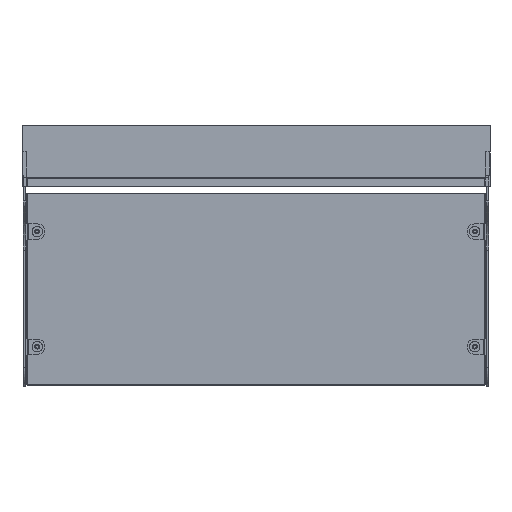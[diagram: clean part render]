
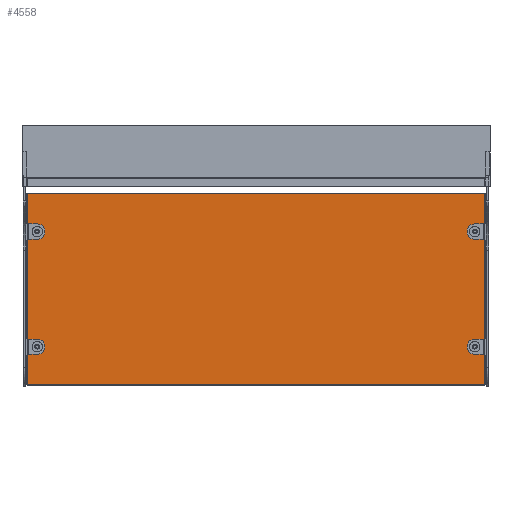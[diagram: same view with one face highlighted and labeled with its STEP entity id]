
A CAD part, front view. The second image highlights one B-rep face of the part: STEP entity #4558.
In plain terms, the highlighted planar face has unit normal (0, -1, -0.018).
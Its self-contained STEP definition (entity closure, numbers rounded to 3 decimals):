
#578 = VERTEX_POINT ( 'NONE', #15602 ) ;
#626 = CIRCLE ( 'NONE', #11475, 3.15 ) ;
#675 = ORIENTED_EDGE ( 'NONE', *, *, #4897, .T. ) ;
#689 = DIRECTION ( 'NONE',  ( 0., 1., 0.017 ) ) ;
#771 = DIRECTION ( 'NONE',  ( 0., 0.017, -1. ) ) ;
#787 = DIRECTION ( 'NONE',  ( 0., 0.017, -1. ) ) ;
#1225 = CIRCLE ( 'NONE', #3617, 3.15 ) ;
#1905 = DIRECTION ( 'NONE',  ( 0., 0.017, -1. ) ) ;
#1958 = VERTEX_POINT ( 'NONE', #13067 ) ;
#2209 = ORIENTED_EDGE ( 'NONE', *, *, #17019, .F. ) ;
#2367 = DIRECTION ( 'NONE',  ( 0., 0.017, -1. ) ) ;
#2520 = EDGE_LOOP ( 'NONE', ( #11194, #2209 ) ) ;
#2547 = CARTESIAN_POINT ( 'NONE',  ( -299., 728.184, -89.389 ) ) ;
#2573 = CARTESIAN_POINT ( 'NONE',  ( -550.407, 726.762, -7.918 ) ) ;
#3310 = DIRECTION ( 'NONE',  ( 0., -1., -0.017 ) ) ;
#3425 = CARTESIAN_POINT ( 'NONE',  ( 285., 731.657, -288.359 ) ) ;
#3617 = AXIS2_PLACEMENT_3D ( 'NONE', #3425, #16262, #17855 ) ;
#3863 = AXIS2_PLACEMENT_3D ( 'NONE', #13622, #689, #787 ) ;
#3987 = FACE_OUTER_BOUND ( 'NONE', #7777, .T. ) ;
#4042 = CIRCLE ( 'NONE', #16100, 3.15 ) ;
#4088 = PLANE ( 'NONE',  #6754 ) ;
#4160 = DIRECTION ( 'NONE',  ( 0., -1., -0.017 ) ) ;
#4243 = CARTESIAN_POINT ( 'NONE',  ( 285., 731.657, -288.359 ) ) ;
#4269 = CARTESIAN_POINT ( 'NONE',  ( -285., 729.039, -138.382 ) ) ;
#4339 = CARTESIAN_POINT ( 'NONE',  ( -285., 729.094, -141.532 ) ) ;
#4376 = DIRECTION ( 'NONE',  ( 0., 0.017, -1. ) ) ;
#4511 = AXIS2_PLACEMENT_3D ( 'NONE', #4269, #17189, #5485 ) ;
#4548 = CARTESIAN_POINT ( 'NONE',  ( -285., 729.039, -138.382 ) ) ;
#4558 = ADVANCED_FACE ( 'NONE', ( #9559, #12778, #16920, #18514, #3987 ), #4088, .F. ) ;
#4716 = ORIENTED_EDGE ( 'NONE', *, *, #6064, .T. ) ;
#4879 = ORIENTED_EDGE ( 'NONE', *, *, #6171, .F. ) ;
#4897 = EDGE_CURVE ( 'NONE', #9273, #16778, #15578, .T. ) ;
#4926 = AXIS2_PLACEMENT_3D ( 'NONE', #5171, #16781, #17238 ) ;
#5114 = DIRECTION ( 'NONE',  ( 1., 0., 0. ) ) ;
#5126 = EDGE_LOOP ( 'NONE', ( #14975, #4716 ) ) ;
#5171 = CARTESIAN_POINT ( 'NONE',  ( -285., 731.657, -288.359 ) ) ;
#5214 = CIRCLE ( 'NONE', #6110, 3.15 ) ;
#5380 = CARTESIAN_POINT ( 'NONE',  ( -298., 732.529, -338.352 ) ) ;
#5485 = DIRECTION ( 'NONE',  ( 0., 0.017, -1. ) ) ;
#5592 = DIRECTION ( 'NONE',  ( 0., 1., 0.017 ) ) ;
#6064 = EDGE_CURVE ( 'NONE', #578, #12044, #5214, .T. ) ;
#6110 = AXIS2_PLACEMENT_3D ( 'NONE', #7926, #12095, #771 ) ;
#6171 = EDGE_CURVE ( 'NONE', #6555, #8140, #16065, .T. ) ;
#6172 = CARTESIAN_POINT ( 'NONE',  ( 285., 731.602, -285.21 ) ) ;
#6175 = EDGE_CURVE ( 'NONE', #16778, #11322, #11152, .T. ) ;
#6555 = VERTEX_POINT ( 'NONE', #8467 ) ;
#6668 = EDGE_CURVE ( 'NONE', #8140, #6555, #8234, .T. ) ;
#6754 = AXIS2_PLACEMENT_3D ( 'NONE', #2573, #5592, #8323 ) ;
#6858 = ORIENTED_EDGE ( 'NONE', *, *, #8811, .T. ) ;
#6972 = DIRECTION ( 'NONE',  ( 0., 0.017, -1. ) ) ;
#7075 = CARTESIAN_POINT ( 'NONE',  ( 298., 728.184, -89.389 ) ) ;
#7188 = CIRCLE ( 'NONE', #3863, 3.15 ) ;
#7256 = VERTEX_POINT ( 'NONE', #6172 ) ;
#7317 = VERTEX_POINT ( 'NONE', #13264 ) ;
#7396 = CARTESIAN_POINT ( 'NONE',  ( 298., 732.529, -338.352 ) ) ;
#7557 = CARTESIAN_POINT ( 'NONE',  ( 285., 729.094, -141.532 ) ) ;
#7777 = EDGE_LOOP ( 'NONE', ( #6858, #9351, #675, #10230 ) ) ;
#7926 = CARTESIAN_POINT ( 'NONE',  ( 285., 729.039, -138.382 ) ) ;
#8066 = EDGE_LOOP ( 'NONE', ( #9218, #13951 ) ) ;
#8140 = VERTEX_POINT ( 'NONE', #18571 ) ;
#8234 = CIRCLE ( 'NONE', #4926, 3.15 ) ;
#8323 = DIRECTION ( 'NONE',  ( 1., 0., 0. ) ) ;
#8324 = EDGE_LOOP ( 'NONE', ( #14396, #4879 ) ) ;
#8467 = CARTESIAN_POINT ( 'NONE',  ( -285., 731.602, -285.21 ) ) ;
#8574 = DIRECTION ( 'NONE',  ( 0., 1., 0.017 ) ) ;
#8655 = VECTOR ( 'NONE', #4376, 1000. ) ;
#8811 = EDGE_CURVE ( 'NONE', #11322, #13976, #12289, .T. ) ;
#9218 = ORIENTED_EDGE ( 'NONE', *, *, #17889, .T. ) ;
#9220 = EDGE_CURVE ( 'NONE', #7256, #7317, #4042, .T. ) ;
#9273 = VERTEX_POINT ( 'NONE', #7075 ) ;
#9351 = ORIENTED_EDGE ( 'NONE', *, *, #12849, .F. ) ;
#9428 = AXIS2_PLACEMENT_3D ( 'NONE', #11053, #4160, #2367 ) ;
#9559 = FACE_BOUND ( 'NONE', #2520, .T. ) ;
#9632 = DIRECTION ( 'NONE',  ( -1., 0., 0. ) ) ;
#10224 = LINE ( 'NONE', #7396, #8655 ) ;
#10230 = ORIENTED_EDGE ( 'NONE', *, *, #6175, .T. ) ;
#10923 = CARTESIAN_POINT ( 'NONE',  ( 298., 732.512, -337.352 ) ) ;
#11053 = CARTESIAN_POINT ( 'NONE',  ( -285., 731.657, -288.359 ) ) ;
#11152 = LINE ( 'NONE', #5380, #12761 ) ;
#11192 = CARTESIAN_POINT ( 'NONE',  ( -298., 732.512, -337.352 ) ) ;
#11194 = ORIENTED_EDGE ( 'NONE', *, *, #18422, .F. ) ;
#11315 = VECTOR ( 'NONE', #5114, 1000. ) ;
#11322 = VERTEX_POINT ( 'NONE', #11192 ) ;
#11475 = AXIS2_PLACEMENT_3D ( 'NONE', #4548, #3310, #1905 ) ;
#11533 = VECTOR ( 'NONE', #9632, 1000. ) ;
#12044 = VERTEX_POINT ( 'NONE', #7557 ) ;
#12095 = DIRECTION ( 'NONE',  ( 0., 1., 0.017 ) ) ;
#12289 = LINE ( 'NONE', #18029, #11315 ) ;
#12761 = VECTOR ( 'NONE', #14064, 1000. ) ;
#12778 = FACE_BOUND ( 'NONE', #8324, .T. ) ;
#12849 = EDGE_CURVE ( 'NONE', #9273, #13976, #10224, .T. ) ;
#13067 = CARTESIAN_POINT ( 'NONE',  ( -285., 728.984, -135.232 ) ) ;
#13264 = CARTESIAN_POINT ( 'NONE',  ( 285., 731.712, -291.509 ) ) ;
#13622 = CARTESIAN_POINT ( 'NONE',  ( 285., 729.039, -138.382 ) ) ;
#13951 = ORIENTED_EDGE ( 'NONE', *, *, #9220, .T. ) ;
#13976 = VERTEX_POINT ( 'NONE', #10923 ) ;
#14064 = DIRECTION ( 'NONE',  ( 0., 0.017, -1. ) ) ;
#14320 = EDGE_CURVE ( 'NONE', #12044, #578, #7188, .T. ) ;
#14396 = ORIENTED_EDGE ( 'NONE', *, *, #6668, .F. ) ;
#14975 = ORIENTED_EDGE ( 'NONE', *, *, #14320, .T. ) ;
#15578 = LINE ( 'NONE', #2547, #11533 ) ;
#15602 = CARTESIAN_POINT ( 'NONE',  ( 285., 728.984, -135.232 ) ) ;
#16065 = CIRCLE ( 'NONE', #9428, 3.15 ) ;
#16100 = AXIS2_PLACEMENT_3D ( 'NONE', #4243, #8574, #6972 ) ;
#16262 = DIRECTION ( 'NONE',  ( 0., 1., 0.017 ) ) ;
#16778 = VERTEX_POINT ( 'NONE', #17950 ) ;
#16781 = DIRECTION ( 'NONE',  ( 0., -1., -0.017 ) ) ;
#16920 = FACE_BOUND ( 'NONE', #5126, .T. ) ;
#17019 = EDGE_CURVE ( 'NONE', #1958, #17330, #18363, .T. ) ;
#17189 = DIRECTION ( 'NONE',  ( 0., -1., -0.017 ) ) ;
#17238 = DIRECTION ( 'NONE',  ( 0., 0.017, -1. ) ) ;
#17330 = VERTEX_POINT ( 'NONE', #4339 ) ;
#17855 = DIRECTION ( 'NONE',  ( 0., 0.017, -1. ) ) ;
#17889 = EDGE_CURVE ( 'NONE', #7317, #7256, #1225, .T. ) ;
#17950 = CARTESIAN_POINT ( 'NONE',  ( -298., 728.184, -89.389 ) ) ;
#18029 = CARTESIAN_POINT ( 'NONE',  ( -550.407, 732.512, -337.352 ) ) ;
#18363 = CIRCLE ( 'NONE', #4511, 3.15 ) ;
#18422 = EDGE_CURVE ( 'NONE', #17330, #1958, #626, .T. ) ;
#18514 = FACE_BOUND ( 'NONE', #8066, .T. ) ;
#18571 = CARTESIAN_POINT ( 'NONE',  ( -285., 731.712, -291.509 ) ) ;
